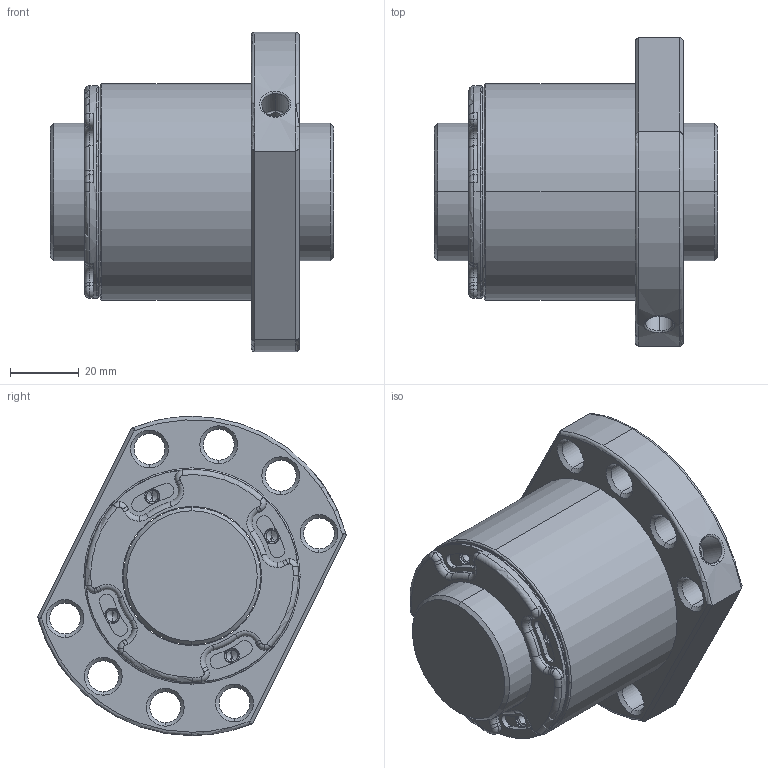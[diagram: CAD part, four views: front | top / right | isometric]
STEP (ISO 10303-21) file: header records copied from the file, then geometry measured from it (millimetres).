
FILE_DESCRIPTION (( 'STEP AP203' ), '1' );
FILE_NAME ('SFSR04010C1D-C.STEP', '2020-06-17T01:50:52', ( '' ), ( '' ), 'SwSTEP 2.0', 'SolidWorks 2013', '' );
FILE_SCHEMA (( 'CONFIG_CONTROL_DESIGN' ));
Length unit declared in the file: millimetre
Products named in the file (1): SFSR04010C1D-C
Bounding box: 82.5 x 89.97 x 93 mm (x, y, z)
Volume: 236787.8 mm3; surface area: 49065.6 mm2
Topology: 2 solids, 2 shells, 420 faces, 1047 edges, 634 vertices
Faces by surface type: cylinder 183, torus 84, plane 83, cone 68, bspline 2
Entity records: 15026 total; most frequent: CARTESIAN_POINT 4644, DIRECTION 2413, ORIENTED_EDGE 2062, AXIS2_PLACEMENT_3D 1045, EDGE_CURVE 1031, VERTEX_POINT 634, CIRCLE 626, EDGE_LOOP 461
